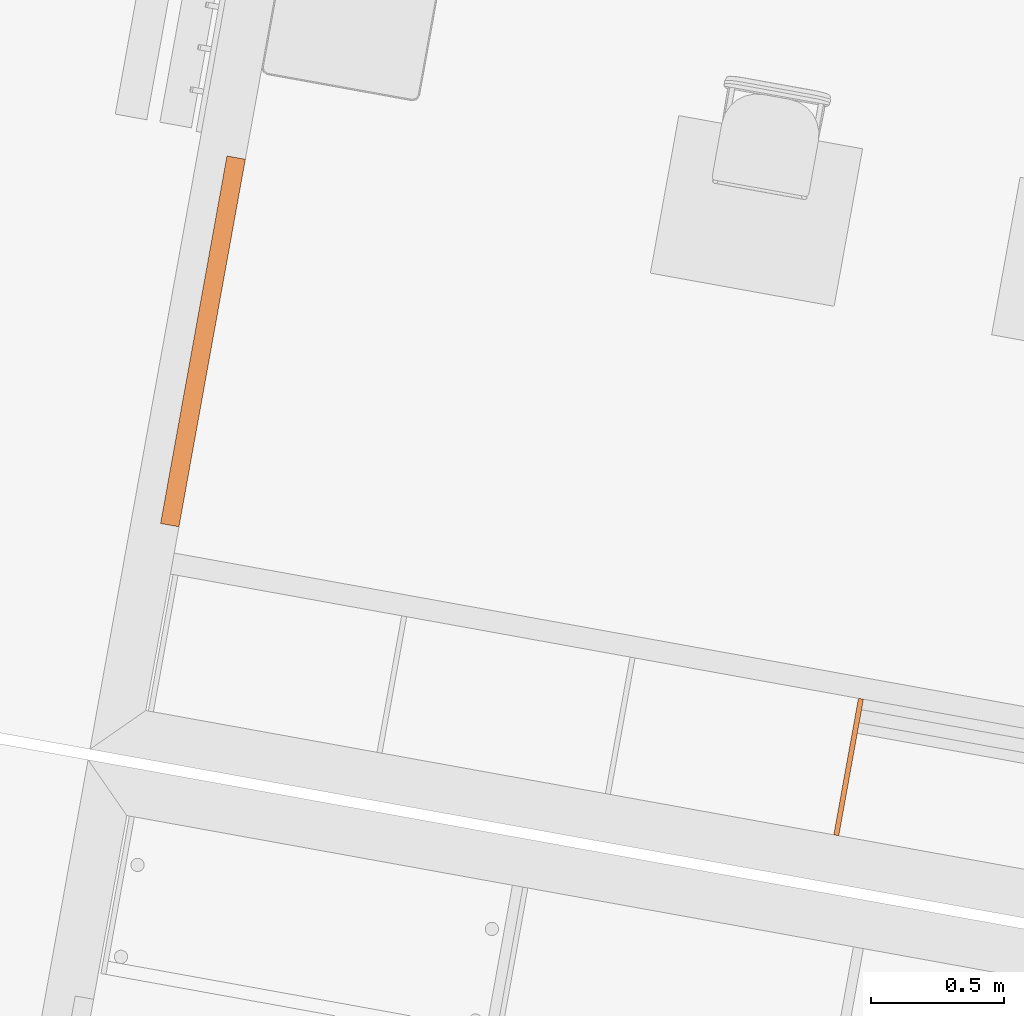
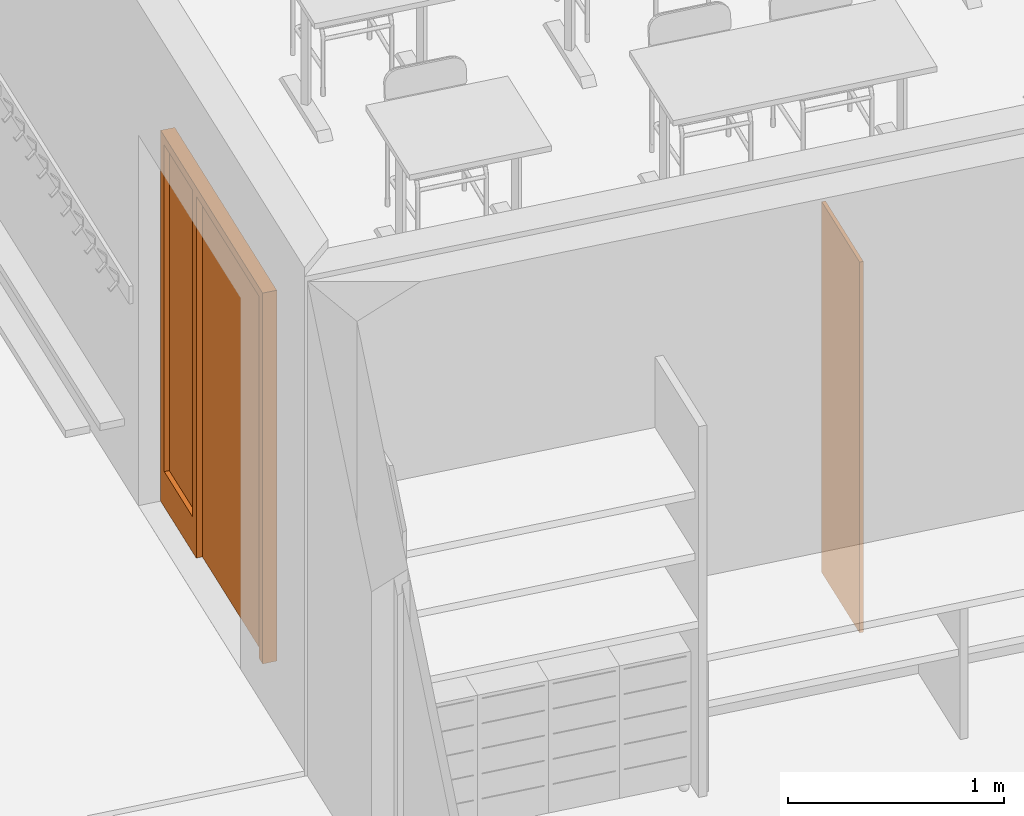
# One storey, part 40 of 79: 2 proxies.
"""IFC2X3 building model written with IfcOpenShell, lengths in metres."""

from ifc_helpers import new_model, entity, si_unit, converted_unit, derived_unit, money_unit, direction, frame, origin_with_axes, place, context, subcontext, project, spatial, polyline, outline, extrude, open_shell, faceted_brep, surface_model, source, transform, mapped, material, type_object, element, save


model = new_model("IFC2X3")

# Units and contexts
model_context = context("Model", 3, precision=1e-05, world=origin_with_axes(), true_north=direction((0.0, 1.0)))
body_context = subcontext(model_context, "Body", "Model", "MODEL_VIEW")
ifc_project = project(units=[si_unit("LENGTHUNIT", "METRE"), si_unit("AREAUNIT", "SQUARE_METRE"), si_unit("VOLUMEUNIT", "CUBIC_METRE"), converted_unit("PLANEANGLEUNIT", "DEGREE", entity("IfcPlaneAngleMeasure", 0.0174532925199), si_unit("PLANEANGLEUNIT", "RADIAN"), dimensions=[0, 0, 0, 0, 0, 0, 0]), money_unit("CHF"), converted_unit("TIMEUNIT", "Year", entity("IfcTimeMeasure", 31556926.0), si_unit("TIMEUNIT", "SECOND"), dimensions=[0, 0, 1, 0, 0, 0, 0]), si_unit("MASSUNIT", "GRAM", prefix="KILO"), si_unit("THERMODYNAMICTEMPERATUREUNIT", "DEGREE_CELSIUS"), si_unit("LUMINOUSINTENSITYUNIT", "LUMEN"), si_unit("ENERGYUNIT", "JOULE", prefix="MEGA"), derived_unit("THERMALCONDUCTANCEUNIT", [(si_unit("POWERUNIT", "WATT"), 1), (si_unit("LENGTHUNIT", "METRE"), -1), (si_unit("THERMODYNAMICTEMPERATUREUNIT", "KELVIN"), -1)]), derived_unit("SPECIFICHEATCAPACITYUNIT", [(si_unit("ENERGYUNIT", "JOULE"), 1), (si_unit("MASSUNIT", "GRAM", prefix="KILO"), -1), (si_unit("THERMODYNAMICTEMPERATUREUNIT", "KELVIN"), -1)]), derived_unit("MASSDENSITYUNIT", [(si_unit("MASSUNIT", "GRAM", prefix="KILO"), 1), (si_unit("VOLUMEUNIT", "CUBIC_METRE"), -1)])], contexts=[model_context])

# Site, building, storey
site_placement = place(None, frame((0.0, 0.0, 0.0), z_axis=(0.0, 0.0, 1.0), x_axis=(-0.177771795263, -0.984071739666, 0.0)))
site = spatial("IfcSite", under=ifc_project, at=site_placement, Name="Site", CompositionType="ELEMENT")
building_placement = place(site_placement, origin_with_axes())
building = spatial("IfcBuilding", under=site, at=building_placement, Name="Bâtiment", CompositionType="ELEMENT")
storey_placement = place(building_placement, origin_with_axes())
storey = spatial("IfcBuildingStorey", under=building, at=storey_placement, Name="RDC", CompositionType="ELEMENT", Elevation=0.0)

# Proxies
ifc_material_1 = material(Name="_panneau mélaminé")
building_element_proxy_type_1 = type_object("IfcBuildingElementProxyType", Name="_panneau mélaminé 19", PredefinedType="NOTDEFINED")
proxy_1_placement = place(storey_placement, frame((128.284841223, -153.816651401, 0.0), z_axis=(0.0, 0.0, 1.0), x_axis=(-1.0, 0.0, 0.0)))
element("IfcBuildingElementProxy", 1, at=proxy_1_placement, inside=storey, type_object=building_element_proxy_type_1, material=ifc_material_1, Name="cloison pl-classe", context=body_context, shape_type="SweptSolid", body=[
    extrude(outline(polyline([(0.0, -0.0095), (0.519999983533, -0.0095), (0.519999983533, 0.0095), (0.0, 0.0095), (0.0, -0.0095)])), origin_with_axes(), (0.0, 0.0, 1.0), 2.1),
])
ifc_material_2 = material(Name="Matériau de construction IFC")
building_element_proxy_type_2 = type_object("IfcBuildingElementProxyType", Name="Porte avec tierce vitrée côté 2 21", PredefinedType="NOTDEFINED")
shared_shape = source(origin_with_axes(), body_context, "Body", "SurfaceModel", [
    faceted_brep([(0.0, 0.18000000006, 0.0), (0.05, 0.18000000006, 0.0), (0.05, 0.11000000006, 0.0), (0.0, 0.11000000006, 0.0), (0.0, 0.18000000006, 2.05), (0.05, 0.18000000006, 2.05), (0.05, 0.18000000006, 0.2), (0.05, 0.11000000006, 0.2), (0.05, 0.11000000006, 2.05), (0.0, 0.11000000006, 2.05)], [[[0, 1, 2, 3]], [[0, 4, 5, 6, 1]], [[1, 6, 7, 2]], [[3, 2, 7, 8, 9]], [[4, 0, 3, 9]], [[5, 4, 9, 8]], [[6, 5, 8, 7]]]),
    faceted_brep([(0.49, 0.14000000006, 0.0), (0.49, 0.14000000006, 2.05), (0.49, 0.11000000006, 2.05), (0.49, 0.11000000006, 0.0), (0.47, 0.14000000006, 2.05), (0.47, 0.14000000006, 0.0), (0.47, 0.18000000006, 2.05), (0.44, 0.18000000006, 2.05), (0.44, 0.11000000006, 2.05), (0.44, 0.11000000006, 0.0), (0.44, 0.11000000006, 0.2), (0.44, 0.18000000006, 0.0), (0.47, 0.18000000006, 0.0), (0.44, 0.18000000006, 0.2)], [[[0, 1, 2, 3]], [[4, 1, 0, 5]], [[4, 6, 7, 8, 2, 1]], [[9, 3, 2, 8, 10]], [[5, 0, 3, 9, 11, 12]], [[6, 4, 5, 12]], [[6, 12, 11, 13, 7]], [[13, 10, 8, 7]], [[11, 9, 10, 13]]]),
    faceted_brep([(0.05, 0.18000000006, 0.2), (0.05, 0.18000000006, 0.0), (0.05, 0.11000000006, 0.0), (0.05, 0.11000000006, 0.2), (0.44, 0.18000000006, 0.2), (0.44, 0.18000000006, 0.0), (0.44, 0.11000000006, 0.0), (0.44, 0.11000000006, 0.2)], [[[0, 1, 2, 3]], [[0, 4, 5, 1]], [[1, 5, 6, 2]], [[3, 2, 6, 7]], [[4, 0, 3, 7]], [[5, 4, 7, 6]]]),
    faceted_brep([(1.37, 0.14000000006, 2.05), (1.35, 0.14000000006, 2.05), (1.35, 0.11000000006, 2.05), (1.4, 0.11000000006, 2.05), (1.4, 0.18000000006, 2.05), (1.37, 0.18000000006, 2.05), (1.37, 0.14000000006, 0.0), (1.35, 0.14000000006, 0.0), (1.35, 0.11000000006, 0.0), (1.4, 0.11000000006, 0.0), (1.4, 0.18000000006, 0.0), (1.37, 0.18000000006, 0.0)], [[[0, 1, 2, 3, 4, 5]], [[1, 0, 6, 7]], [[1, 7, 8, 2]], [[3, 2, 8, 9]], [[4, 3, 9, 10]], [[11, 5, 4, 10]], [[0, 5, 11, 6]], [[6, 11, 10, 9, 8, 7]]]),
    faceted_brep([(0.47, 0.18000000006, 2.07), (0.47, 0.18000000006, 2.05), (0.44, 0.18000000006, 2.05), (0.05, 0.18000000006, 2.05), (0.0, 0.18000000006, 2.05), (0.0, 0.18000000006, 2.1), (1.4, 0.18000000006, 2.1), (1.4, 0.18000000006, 2.05), (1.37, 0.18000000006, 2.05), (1.37, 0.18000000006, 2.07), (0.47, 0.14000000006, 2.07), (0.47, 0.14000000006, 2.05), (1.35, 0.14000000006, 2.05), (1.35, 0.11000000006, 2.05), (0.49, 0.11000000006, 2.05), (0.44, 0.11000000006, 2.05), (0.05, 0.11000000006, 2.05), (0.0, 0.11000000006, 2.05), (0.0, 0.11000000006, 2.1), (1.4, 0.11000000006, 2.1), (1.4, 0.11000000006, 2.05), (1.37, 0.14000000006, 2.05), (1.37, 0.14000000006, 2.07)], [[[0, 1, 2, 3, 4, 5, 6, 7, 8, 9]], [[1, 0, 10, 11]], [[11, 12, 13, 14, 15, 2, 1]], [[2, 15, 16, 3]], [[3, 16, 17, 4]], [[4, 17, 18, 5]], [[5, 18, 19, 6]], [[6, 19, 20, 7]], [[21, 8, 7, 20, 13, 12]], [[9, 8, 21, 22]], [[0, 9, 22, 10]], [[21, 12, 11, 10, 22]], [[13, 20, 19, 18, 17, 16, 15, 14]]]),
    faceted_brep([(1.37, 0.18000000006, 0.0), (1.37, 0.14000000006, 0.0), (0.47, 0.14000000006, 0.0), (0.47, 0.18000000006, 0.0), (1.37, 0.18000000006, 2.07), (1.37, 0.14000000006, 2.07), (0.47, 0.14000000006, 2.07), (0.47, 0.18000000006, 2.07)], [[[0, 1, 2, 3]], [[4, 5, 1, 0]], [[1, 5, 6, 2]], [[3, 2, 6, 7]], [[0, 3, 7, 4]], [[7, 6, 5, 4]]]),
    surface_model("IfcShellBasedSurfaceModel", [(0.05, 0.14500000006, 0.2), (0.05, 0.14500000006, 2.05), (0.44, 0.14500000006, 2.05), (0.44, 0.14500000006, 0.2)], [open_shell([[[0, 1, 2, 3]]])]),
    surface_model("IfcShellBasedSurfaceModel", [(0.05, 0.13500000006, 0.2), (0.44, 0.13500000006, 0.2), (0.44, 0.13500000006, 2.05), (0.05, 0.13500000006, 2.05)], [open_shell([[[0, 1, 2, 3]]])]),
])
proxy_2_placement = place(storey_placement, frame((126.184841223, -156.627151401, 0.0), z_axis=(0.0, 0.0, 1.0), x_axis=(1.0, 0.0, 0.0)))
element("IfcBuildingElementProxy", 2, at=proxy_2_placement, inside=storey, type_object=building_element_proxy_type_2, material=ifc_material_2, Name="4", context=body_context, shape_type="MappedRepresentation", body=[
    mapped(shared_shape, transform((0.0, 0.0, 0.0))),
])

save(model, "model.ifc")
